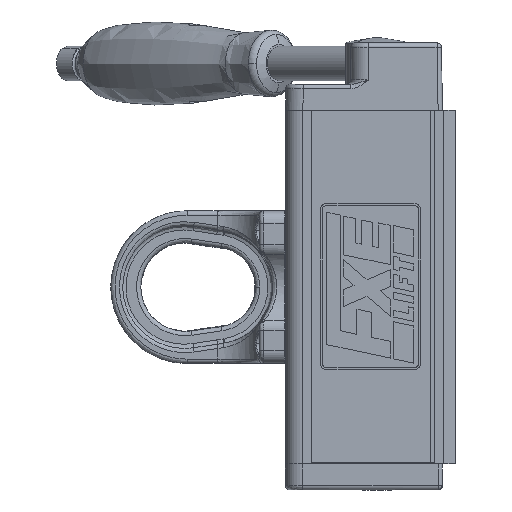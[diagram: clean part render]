
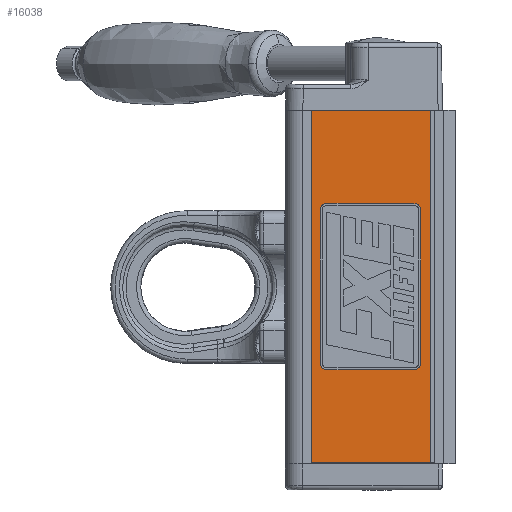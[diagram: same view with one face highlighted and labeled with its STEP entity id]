
A CAD part, left-side view. The second image highlights one B-rep face of the part: STEP entity #16038.
In plain terms, the highlighted planar face has unit normal (-1, 0, 0).
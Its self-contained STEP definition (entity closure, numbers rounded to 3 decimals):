
#460 = CARTESIAN_POINT ( 'NONE',  ( -43., -16.872, 38.346 ) ) ;
#473 = VERTEX_POINT ( 'NONE', #15193 ) ;
#628 = CARTESIAN_POINT ( 'NONE',  ( -43., -19.938, -35.032 ) ) ;
#880 = EDGE_CURVE ( 'NONE', #33692, #10824, #30472, .T. ) ;
#1349 = EDGE_CURVE ( 'NONE', #48807, #7106, #26211, .T. ) ;
#1607 = CARTESIAN_POINT ( 'NONE',  ( -43., -16.872, -37.904 ) ) ;
#1858 = CARTESIAN_POINT ( 'NONE',  ( -43., 26.062, -36.612 ) ) ;
#4539 = DIRECTION ( 'NONE',  ( 0., 0., -1. ) ) ;
#5047 = CARTESIAN_POINT ( 'NONE',  ( -43., 26.062, 0.221 ) ) ;
#5242 = ORIENTED_EDGE ( 'NONE', *, *, #52573, .T. ) ;
#5490 = CARTESIAN_POINT ( 'NONE',  ( -43., -19.938, 37.053 ) ) ;
#7106 = VERTEX_POINT ( 'NONE', #29727 ) ;
#7941 = EDGE_CURVE ( 'NONE', #42177, #48807, #58348, .T. ) ;
#9210 = FACE_BOUND ( 'NONE', #30223, .T. ) ;
#9345 = ORIENTED_EDGE ( 'NONE', *, *, #14382, .T. ) ;
#9450 = CARTESIAN_POINT ( 'NONE',  ( -43., 1.75, -37.904 ) ) ;
#9583 = CARTESIAN_POINT ( 'NONE',  ( -43., 30., -80.529 ) ) ;
#10258 = DIRECTION ( 'NONE',  ( 1., 0., 0. ) ) ;
#10824 = VERTEX_POINT ( 'NONE', #47419 ) ;
#14382 = EDGE_CURVE ( 'NONE', #42802, #34974, #58485, .T. ) ;
#14554 = ORIENTED_EDGE ( 'NONE', *, *, #24253, .T. ) ;
#14633 = DIRECTION ( 'NONE',  ( 0., 0., 1. ) ) ;
#14905 = CARTESIAN_POINT ( 'NONE',  ( -43., -26.5, 80.971 ) ) ;
#15193 = CARTESIAN_POINT ( 'NONE',  ( -43., 26.062, 35.474 ) ) ;
#16038 = ADVANCED_FACE ( 'NONE', ( #58878, #9210 ), #49710, .F. ) ;
#16828 = CARTESIAN_POINT ( 'NONE',  ( -43., -26.5, -80.529 ) ) ;
#17391 = EDGE_CURVE ( 'NONE', #473, #62797, #33870, .T. ) ;
#18542 = CARTESIAN_POINT ( 'NONE',  ( -43., 1.75, 38.346 ) ) ;
#18838 = VERTEX_POINT ( 'NONE', #58679 ) ;
#18955 = B_SPLINE_CURVE_WITH_KNOTS ( 'NONE', 3,
 ( #628, #20379, #55099, #35346 ),
 .UNSPECIFIED., .F., .F.,
 ( 4, 4 ),
 ( 5., 6. ),
 .UNSPECIFIED. ) ;
#19369 = CARTESIAN_POINT ( 'NONE',  ( -43., 24.681, 38.346 ) ) ;
#20059 = CARTESIAN_POINT ( 'NONE',  ( -43., -18.558, 38.346 ) ) ;
#20124 = EDGE_LOOP ( 'NONE', ( #53613, #61577, #5242, #24653 ) ) ;
#20352 = LINE ( 'NONE', #16828, #46754 ) ;
#20379 = CARTESIAN_POINT ( 'NONE',  ( -43., -19.938, -36.611 ) ) ;
#20424 = VECTOR ( 'NONE', #39137, 1000. ) ;
#20453 = LINE ( 'NONE', #35433, #58525 ) ;
#20800 = VERTEX_POINT ( 'NONE', #28667 ) ;
#21167 = AXIS2_PLACEMENT_3D ( 'NONE', #39947, #10258, #44929 ) ;
#22458 = LINE ( 'NONE', #5047, #48819 ) ;
#24253 = EDGE_CURVE ( 'NONE', #10824, #60276, #36393, .T. ) ;
#24647 = VECTOR ( 'NONE', #4539, 1000. ) ;
#24653 = ORIENTED_EDGE ( 'NONE', *, *, #26963, .T. ) ;
#25800 = CARTESIAN_POINT ( 'NONE',  ( -43., -19.938, 0.221 ) ) ;
#26211 = LINE ( 'NONE', #9583, #24647 ) ;
#26472 = CARTESIAN_POINT ( 'NONE',  ( -43., 30., 80.971 ) ) ;
#26963 = EDGE_CURVE ( 'NONE', #20800, #42177, #20352, .T. ) ;
#28667 = CARTESIAN_POINT ( 'NONE',  ( -43., -26.5, -80.529 ) ) ;
#29727 = CARTESIAN_POINT ( 'NONE',  ( -43., 30., -80.529 ) ) ;
#30223 = EDGE_LOOP ( 'NONE', ( #14554, #31135, #9345, #41448, #62166, #54241, #46253, #48001 ) ) ;
#30472 = B_SPLINE_CURVE_WITH_KNOTS ( 'NONE', 3,
 ( #50199, #20059, #5490, #40223 ),
 .UNSPECIFIED., .F., .F.,
 ( 4, 4 ),
 ( 3., 4. ),
 .UNSPECIFIED. ) ;
#31135 = ORIENTED_EDGE ( 'NONE', *, *, #41295, .T. ) ;
#33692 = VERTEX_POINT ( 'NONE', #460 ) ;
#33870 = B_SPLINE_CURVE_WITH_KNOTS ( 'NONE', 3,
 ( #44106, #39102, #19369, #54079 ),
 .UNSPECIFIED., .F., .F.,
 ( 4, 4 ),
 ( 1., 2. ),
 .UNSPECIFIED. ) ;
#34974 = VERTEX_POINT ( 'NONE', #46958 ) ;
#35346 = CARTESIAN_POINT ( 'NONE',  ( -43., -16.872, -37.904 ) ) ;
#35433 = CARTESIAN_POINT ( 'NONE',  ( -43., -26.5, -80.529 ) ) ;
#36393 = LINE ( 'NONE', #25800, #49582 ) ;
#36557 = CARTESIAN_POINT ( 'NONE',  ( -43., 26.062, -35.032 ) ) ;
#39102 = CARTESIAN_POINT ( 'NONE',  ( -43., 26.062, 37.054 ) ) ;
#39137 = DIRECTION ( 'NONE',  ( 0., 1., 0. ) ) ;
#39502 = EDGE_CURVE ( 'NONE', #62797, #33692, #60450, .T. ) ;
#39947 = CARTESIAN_POINT ( 'NONE',  ( -43., 1.75, 0.221 ) ) ;
#40223 = CARTESIAN_POINT ( 'NONE',  ( -43., -19.938, 35.474 ) ) ;
#40294 = CARTESIAN_POINT ( 'NONE',  ( -43., -19.938, -35.032 ) ) ;
#41295 = EDGE_CURVE ( 'NONE', #60276, #42802, #18955, .T. ) ;
#41366 = CARTESIAN_POINT ( 'NONE',  ( -43., 22.995, -37.904 ) ) ;
#41448 = ORIENTED_EDGE ( 'NONE', *, *, #55606, .T. ) ;
#42177 = VERTEX_POINT ( 'NONE', #55735 ) ;
#42802 = VERTEX_POINT ( 'NONE', #1607 ) ;
#44106 = CARTESIAN_POINT ( 'NONE',  ( -43., 26.062, 35.474 ) ) ;
#44929 = DIRECTION ( 'NONE',  ( 0., 1., 0. ) ) ;
#45530 = DIRECTION ( 'NONE',  ( 0., 0., -1. ) ) ;
#46253 = ORIENTED_EDGE ( 'NONE', *, *, #39502, .T. ) ;
#46329 = CARTESIAN_POINT ( 'NONE',  ( -43., 24.682, -37.904 ) ) ;
#46754 = VECTOR ( 'NONE', #51497, 1000. ) ;
#46958 = CARTESIAN_POINT ( 'NONE',  ( -43., 22.995, -37.904 ) ) ;
#47158 = B_SPLINE_CURVE_WITH_KNOTS ( 'NONE', 3,
 ( #41366, #46329, #1858, #36557 ),
 .UNSPECIFIED., .F., .F.,
 ( 4, 4 ),
 ( 7., 8. ),
 .UNSPECIFIED. ) ;
#47228 = VECTOR ( 'NONE', #63223, 1000. ) ;
#47419 = CARTESIAN_POINT ( 'NONE',  ( -43., -19.938, 35.474 ) ) ;
#48001 = ORIENTED_EDGE ( 'NONE', *, *, #880, .T. ) ;
#48356 = CARTESIAN_POINT ( 'NONE',  ( -43., 22.995, 38.346 ) ) ;
#48807 = VERTEX_POINT ( 'NONE', #26472 ) ;
#48819 = VECTOR ( 'NONE', #14633, 1000. ) ;
#49582 = VECTOR ( 'NONE', #45530, 1000. ) ;
#49710 = PLANE ( 'NONE',  #21167 ) ;
#50199 = CARTESIAN_POINT ( 'NONE',  ( -43., -16.872, 38.346 ) ) ;
#50939 = EDGE_CURVE ( 'NONE', #18838, #473, #22458, .T. ) ;
#51497 = DIRECTION ( 'NONE',  ( 0., 0., 1. ) ) ;
#52573 = EDGE_CURVE ( 'NONE', #7106, #20800, #20453, .T. ) ;
#53613 = ORIENTED_EDGE ( 'NONE', *, *, #7941, .T. ) ;
#54079 = CARTESIAN_POINT ( 'NONE',  ( -43., 22.995, 38.346 ) ) ;
#54241 = ORIENTED_EDGE ( 'NONE', *, *, #17391, .T. ) ;
#54377 = DIRECTION ( 'NONE',  ( 0., 1., 0. ) ) ;
#55099 = CARTESIAN_POINT ( 'NONE',  ( -43., -18.559, -37.904 ) ) ;
#55191 = DIRECTION ( 'NONE',  ( 0., -1., 0. ) ) ;
#55606 = EDGE_CURVE ( 'NONE', #34974, #18838, #47158, .T. ) ;
#55735 = CARTESIAN_POINT ( 'NONE',  ( -43., -26.5, 80.971 ) ) ;
#56775 = VECTOR ( 'NONE', #54377, 1000. ) ;
#58348 = LINE ( 'NONE', #14905, #56775 ) ;
#58485 = LINE ( 'NONE', #9450, #20424 ) ;
#58525 = VECTOR ( 'NONE', #55191, 1000. ) ;
#58679 = CARTESIAN_POINT ( 'NONE',  ( -43., 26.062, -35.032 ) ) ;
#58878 = FACE_OUTER_BOUND ( 'NONE', #20124, .T. ) ;
#60276 = VERTEX_POINT ( 'NONE', #40294 ) ;
#60450 = LINE ( 'NONE', #18542, #47228 ) ;
#61577 = ORIENTED_EDGE ( 'NONE', *, *, #1349, .T. ) ;
#62166 = ORIENTED_EDGE ( 'NONE', *, *, #50939, .T. ) ;
#62797 = VERTEX_POINT ( 'NONE', #48356 ) ;
#63223 = DIRECTION ( 'NONE',  ( 0., -1., 0. ) ) ;
